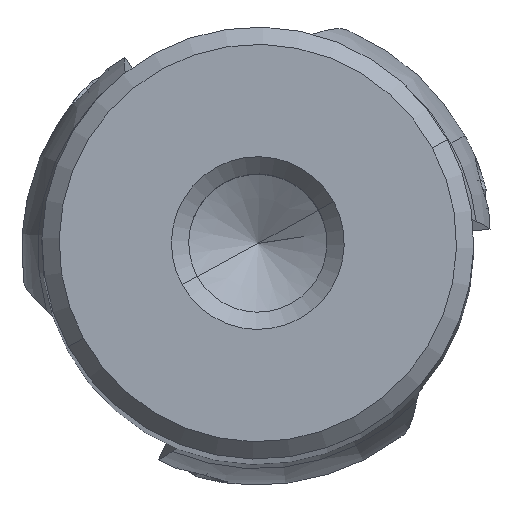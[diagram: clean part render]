
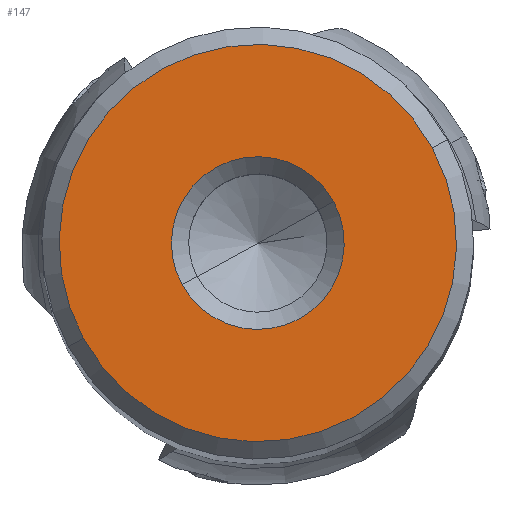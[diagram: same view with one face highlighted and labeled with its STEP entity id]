
A CAD part, top view. The second image highlights one B-rep face of the part: STEP entity #147.
In plain terms, the highlighted planar face has unit normal (0, 0, 1).
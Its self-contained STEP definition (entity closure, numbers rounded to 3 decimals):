
#105=AXIS2_PLACEMENT_3D('Circle Axis2P3D',#103,#104,$) ;
#118=AXIS2_PLACEMENT_3D('Plane Axis2P3D',#115,#116,#117) ;
#122=AXIS2_PLACEMENT_3D('Circle Axis2P3D',#120,#121,$) ;
#131=AXIS2_PLACEMENT_3D('Circle Axis2P3D',#129,#130,$) ;
#140=AXIS2_PLACEMENT_3D('Circle Axis2P3D',#138,#139,$) ;
#84=CARTESIAN_POINT('Vertex',(4.388,2.397,56.)) ;
#100=CARTESIAN_POINT('Vertex',(-4.388,-2.397,56.)) ;
#103=CARTESIAN_POINT('Axis2P3D Location',(0.,0.,56.)) ;
#115=CARTESIAN_POINT('Axis2P3D Location',(11.5,0.,56.)) ;
#120=CARTESIAN_POINT('Axis2P3D Location',(0.,0.,56.)) ;
#124=CARTESIAN_POINT('Vertex',(-10.092,-5.513,56.)) ;
#126=CARTESIAN_POINT('Vertex',(10.092,5.513,56.)) ;
#129=CARTESIAN_POINT('Axis2P3D Location',(0.,0.,56.)) ;
#138=CARTESIAN_POINT('Axis2P3D Location',(0.,0.,56.)) ;
#104=DIRECTION('Axis2P3D Direction',(0.,0.,1.)) ;
#116=DIRECTION('Axis2P3D Direction',(0.,0.,1.)) ;
#117=DIRECTION('Axis2P3D XDirection',(-1.,0.,0.)) ;
#121=DIRECTION('Axis2P3D Direction',(0.,0.,1.)) ;
#130=DIRECTION('Axis2P3D Direction',(0.,0.,1.)) ;
#139=DIRECTION('Axis2P3D Direction',(0.,0.,1.)) ;
#135=ORIENTED_EDGE('',*,*,#128,.T.) ;
#136=ORIENTED_EDGE('',*,*,#133,.T.) ;
#144=ORIENTED_EDGE('',*,*,#142,.F.) ;
#145=ORIENTED_EDGE('',*,*,#107,.F.) ;
#146=FACE_BOUND('',#143,.T.) ;
#147=ADVANCED_FACE('NOCUT',(#137,#146),#119,.T.) ;
#106=CIRCLE('generated circle',#105,5.) ;
#123=CIRCLE('generated circle',#122,11.5) ;
#132=CIRCLE('generated circle',#131,11.5) ;
#141=CIRCLE('generated circle',#140,5.) ;
#107=EDGE_CURVE('',#101,#85,#106,.T.) ;
#128=EDGE_CURVE('',#125,#127,#123,.T.) ;
#133=EDGE_CURVE('',#127,#125,#132,.T.) ;
#142=EDGE_CURVE('',#85,#101,#141,.T.) ;
#134=EDGE_LOOP('',(#135,#136)) ;
#143=EDGE_LOOP('',(#144,#145)) ;
#137=FACE_OUTER_BOUND('',#134,.T.) ;
#119=PLANE('',#118) ;
#85=VERTEX_POINT('',#84) ;
#101=VERTEX_POINT('',#100) ;
#125=VERTEX_POINT('',#124) ;
#127=VERTEX_POINT('',#126) ;
